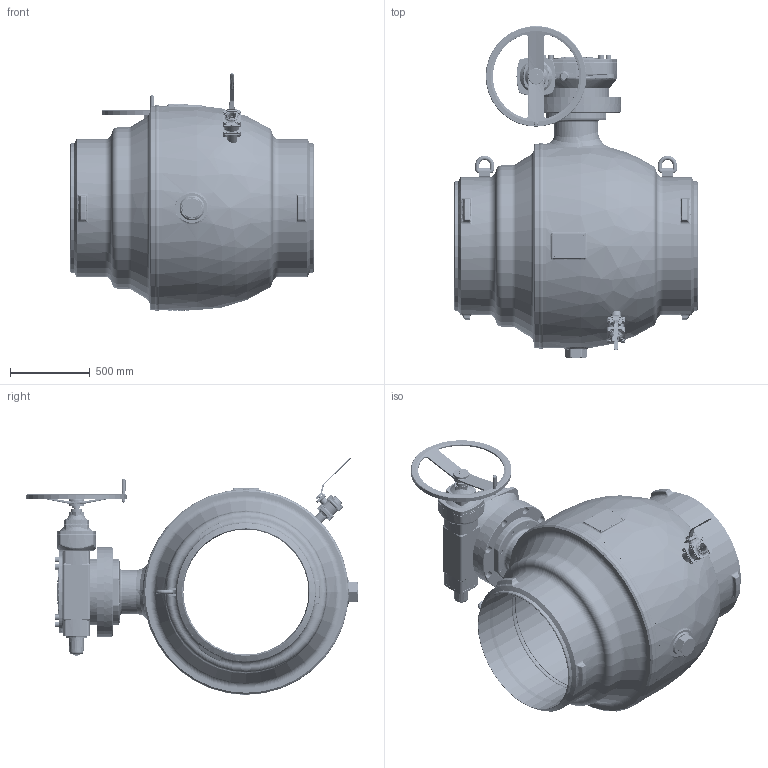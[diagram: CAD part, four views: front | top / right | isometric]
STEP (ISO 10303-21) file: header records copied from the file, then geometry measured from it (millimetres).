
FILE_DESCRIPTION((''),'2;1');
FILE_NAME('ASM0001_ASM','2026-01-28T11:32:51',('schwaba'),('KLINGER'),'CREO PARAMETRIC BY PTC INC, 2023014','CREO PARAMETRIC BY PTC INC, 2023014','');
FILE_SCHEMA(('CONFIG_CONTROL_DESIGN'));
Length unit declared in the file: millimetre
Products named in the file (3): KHSVI_800_FR_WE_ENTL; GS250_848_F35_AHR630_DN800; ASM0001_ASM
Assembly tree (2 placements, depth 2):
  ASM0001_ASM
    KHSVI_800_FR_WE_ENTL
    GS250_848_F35_AHR630_DN800
Bounding box: 1524 x 2076 x 1486.43 mm (x, y, z)
Volume: 541000941.1 mm3; surface area: 25065226.3 mm2
Topology: 6 solids, 11 shells, 5364 faces, 12844 edges, 7626 vertices
Faces by surface type: plane 1588, cylinder 1434, torus 766, cone 749, bspline 679, sphere 109, revolution 31, extrusion 8
Entity records: 309183 total; most frequent: CARTESIAN_POINT 190821, ORIENTED_EDGE 25482, DIRECTION 23988, EDGE_CURVE 12741, AXIS2_PLACEMENT_3D 9978, VERTEX_POINT 7626, EDGE_LOOP 5739, FACE_OUTER_BOUND 5364
